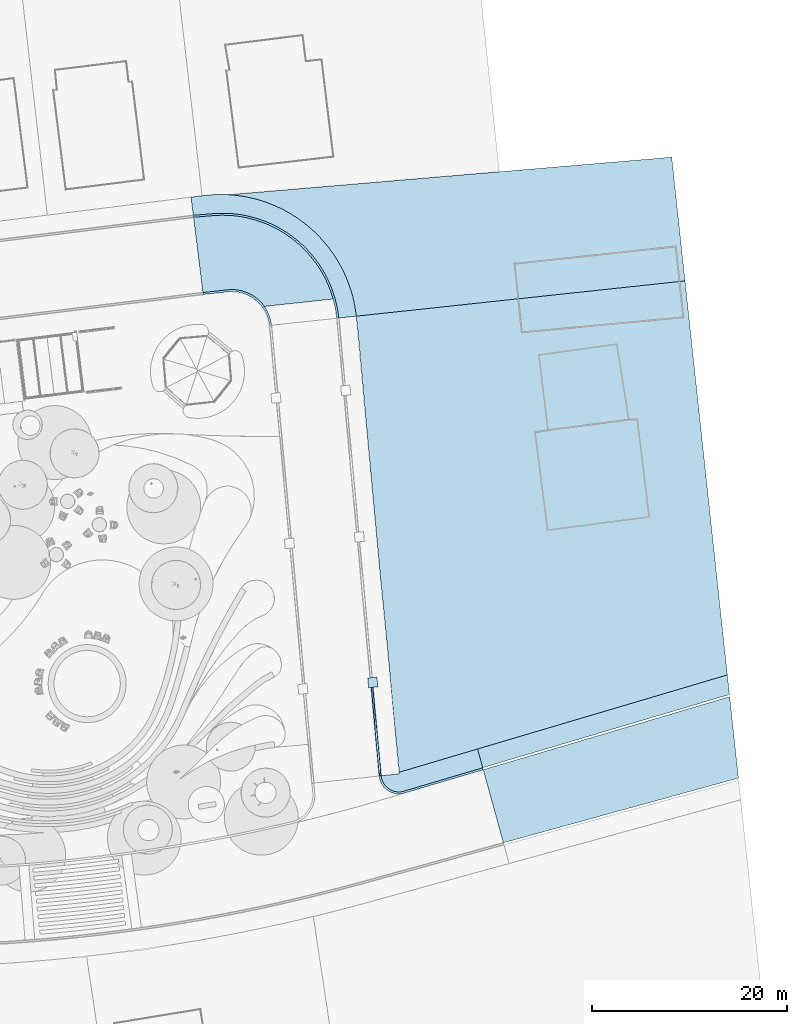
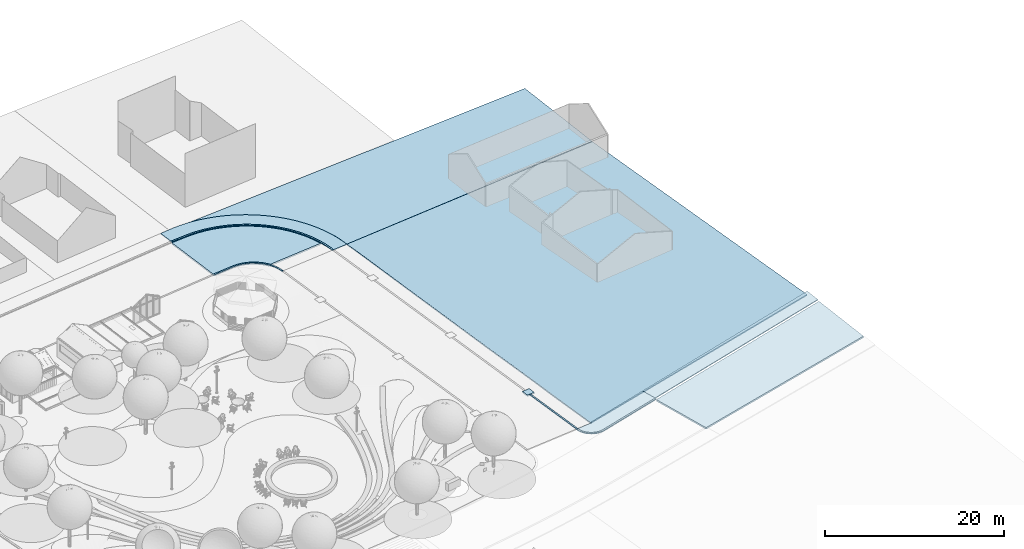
# One storey, part 15 of 75: 12 slabs.
"""IFC2X3 building model written with IfcOpenShell, lengths in metres."""

import ifcopenshell
import ifcopenshell.guid

model = None  # the IFC model being written
_history = None  # IfcOwnerHistory: only IFC2X3 demands one
_inside = {}  # id of a spatial element -> (the spatial element, [elements in it])
_under = {}  # id of a project, library or spatial element -> (it, [spatial elements below it])
_declared = {}  # id of a project -> (the project, [libraries it declares])
_typed = {}  # id of a type object -> (the type object, [elements of that type])
_made_of = {}  # id of a material, layer set ... -> (it, [elements and type objects made of it])


def new_model(schema):
    """Start an empty IFC model of exactly this schema.

    Asked for "IFC4X3", IfcOpenShell would pick the latest addendum, in which some entities
    have other attributes; the version numbers below select the first issue.
    IFC2X3 requires an IfcOwnerHistory on every rooted entity: one is made here for all.
    """
    global model, _history
    if schema == "IFC4X3":
        model = ifcopenshell.file(schema_version=(4, 3, 0, 0))
    else:
        model = ifcopenshell.file(schema=schema)
    _inside.clear()
    _under.clear()
    _declared.clear()
    _typed.clear()
    _made_of.clear()
    _history = None
    if model.schema == "IFC2X3":
        org = make("IfcOrganization", Name="unknown")
        user = make(
            "IfcPersonAndOrganization",
            ThePerson=make("IfcPerson", FamilyName="unknown"),
            TheOrganization=org,
        )
        app = make(
            "IfcApplication",
            ApplicationDeveloper=org,
            Version="unknown",
            ApplicationFullName="unknown",
            ApplicationIdentifier="unknown",
        )
        _history = make(
            "IfcOwnerHistory",
            OwningUser=user,
            OwningApplication=app,
            ChangeAction="ADDED",
            CreationDate=0,
        )
    return model


def make(cls, **values):
    """One entity of the class cls with the attributes given. An attribute that is None is left unset."""
    return model.create_entity(
        cls, **{name: value for name, value in values.items() if value is not None}
    )


def entity(cls, *values):
    """Any entity or typed value of the class cls, its attributes in the order of the schema. None: left unset."""
    e = model.create_entity(cls)
    for i, value in enumerate(values):
        if value is not None:
            e[i] = value
    return e


def rooted(cls, **values):
    """An entity with a GlobalId (a new one), such as an element, a storey or a relation."""
    return make(cls, GlobalId=ifcopenshell.guid.new(), OwnerHistory=_history, **values)


def si_unit(unit_type, name, prefix=None):
    """IfcSIUnit, for example si_unit("LENGTHUNIT", "METRE", prefix="MILLI")."""
    return make("IfcSIUnit", UnitType=unit_type, Prefix=prefix, Name=name)


def converted_unit(unit_type, name, factor, base, dimensions=None, offset=None):
    """IfcConversionBasedUnit, such as the inch: factor (a typed value) times the base unit."""
    return make(
        "IfcConversionBasedUnit"
        if offset is None
        else "IfcConversionBasedUnitWithOffset",
        ConversionOffset=offset,
        Dimensions=None
        if dimensions is None
        else entity("IfcDimensionalExponents", *dimensions),
        UnitType=unit_type,
        Name=name,
        ConversionFactor=make(
            "IfcMeasureWithUnit", ValueComponent=factor, UnitComponent=base
        ),
    )


def derived_unit(unit_type, elements):
    """IfcDerivedUnit: a product of units, each with its exponent."""
    return make(
        "IfcDerivedUnit",
        Elements=[
            make("IfcDerivedUnitElement", Unit=unit, Exponent=power)
            for unit, power in elements
        ],
        UnitType=unit_type,
    )


def assignment(units):
    """IfcUnitAssignment: the units of a project."""
    return None if units is None else make("IfcUnitAssignment", Units=units)


def point(xyz):
    """IfcCartesianPoint."""
    return None if xyz is None else make("IfcCartesianPoint", Coordinates=xyz)


def direction(xyz):
    """IfcDirection."""
    return None if xyz is None else make("IfcDirection", DirectionRatios=xyz)


def frame(location, z_axis=None, x_axis=None):
    """IfcAxis2Placement3D, a coordinate frame: its origin and axes. An axis left out is left unset."""
    return make(
        "IfcAxis2Placement3D",
        Location=point(location),
        Axis=direction(z_axis),
        RefDirection=direction(x_axis),
    )


def frame_2d(location, x_axis=None):
    """IfcAxis2Placement2D, a coordinate frame in the plane: its origin and x axis."""
    return make(
        "IfcAxis2Placement2D", Location=point(location), RefDirection=direction(x_axis)
    )


def origin():
    """The frame at (0, 0, 0) with its axes left unset."""
    return frame((0.0, 0.0, 0.0))


def place(relative_to, where):
    """IfcLocalPlacement: puts the frame where relative to a parent placement (None: the world)."""
    return make(
        "IfcLocalPlacement", PlacementRelTo=relative_to, RelativePlacement=where
    )


def context(
    kind, dimensions, precision=None, world=None, true_north=None, identifier=None
):
    """IfcGeometricRepresentationContext, for example the 3D "Model" context."""
    return make(
        "IfcGeometricRepresentationContext",
        ContextIdentifier=identifier,
        ContextType=kind,
        CoordinateSpaceDimension=dimensions,
        Precision=precision,
        WorldCoordinateSystem=world,
        TrueNorth=true_north,
    )


def subcontext(parent, identifier, kind, view, scale=None):
    """IfcGeometricRepresentationSubContext, for example "Body" below "Model"."""
    return make(
        "IfcGeometricRepresentationSubContext",
        ContextIdentifier=identifier,
        ContextType=kind,
        ParentContext=parent,
        TargetScale=scale,
        TargetView=view,
    )


def project(units=None, contexts=None):
    """IfcProject with its units and contexts."""
    return rooted(
        "IfcProject",
        Name="project",
        RepresentationContexts=contexts,
        UnitsInContext=assignment(units),
    )


def spatial(cls, under=None, at=None, **own):
    """A site, building, storey or space (cls), placed at a placement, below another one or the project."""
    s = rooted(cls, ObjectPlacement=at, **own)
    if under is not None:
        _under.setdefault(under.id(), (under, []))[1].append(s)
    return s


def polyline(points):
    """IfcPolyline through the points."""
    return make("IfcPolyline", Points=[point(p) for p in points])


def circle_curve(where, radius):
    """IfcCircle in the frame where."""
    return make("IfcCircle", Position=where, Radius=radius)


def parameter(value):
    """IfcParameterValue: where a trimmed curve begins or ends, as a parameter of its basis curve."""
    return model.create_entity("IfcParameterValue", value)


def trimmed(basis, trim1, trim2, sense, master):
    """IfcTrimmedCurve: the piece of a basis curve between two trims."""
    return make(
        "IfcTrimmedCurve",
        BasisCurve=basis,
        Trim1=trim1,
        Trim2=trim2,
        SenseAgreement=sense,
        MasterRepresentation=master,
    )


def segment(curve, same_sense, transition):
    """IfcCompositeCurveSegment."""
    return make(
        "IfcCompositeCurveSegment",
        Transition=transition,
        SameSense=same_sense,
        ParentCurve=curve,
    )


def composite_curve(segments, self_intersect=None):
    """IfcCompositeCurve: segments joined end to end."""
    return make("IfcCompositeCurve", Segments=segments, SelfIntersect=self_intersect)


def outline(outer, holes=None, kind="AREA"):
    """IfcArbitraryClosedProfileDef: a profile drawn as a closed curve; with holes, ...WithVoids."""
    if holes is None:
        return make("IfcArbitraryClosedProfileDef", ProfileType=kind, OuterCurve=outer)
    return make(
        "IfcArbitraryProfileDefWithVoids",
        ProfileType=kind,
        OuterCurve=outer,
        InnerCurves=holes,
    )


def extrude(swept, where, along, depth):
    """IfcExtrudedAreaSolid: the profile swept, set in the frame where, extruded along a direction by depth."""
    return make(
        "IfcExtrudedAreaSolid",
        SweptArea=swept,
        Position=where,
        ExtrudedDirection=direction(along),
        Depth=depth,
    )


def clip(a, b, op="DIFFERENCE"):
    """IfcBooleanClippingResult: the solid a cut by the half space b."""
    return make(
        "IfcBooleanClippingResult", Operator=op, FirstOperand=a, SecondOperand=b
    )


def halfspace(plane, agree):
    """IfcHalfSpaceSolid: all space on one side of the plane z = 0 of the frame plane."""
    return make(
        "IfcHalfSpaceSolid",
        BaseSurface=make("IfcPlane", Position=plane),
        AgreementFlag=agree,
    )


def shape(context_of_items, identifier, shape_type, items):
    """IfcShapeRepresentation: the items that make up one representation, for example the "Body"."""
    return make(
        "IfcShapeRepresentation",
        ContextOfItems=context_of_items,
        RepresentationIdentifier=identifier,
        RepresentationType=shape_type,
        Items=items,
    )


def material(Name=None, Category=None):
    """IfcMaterial."""
    return make("IfcMaterial", Name=Name, Category=Category)


def layer(
    of_material, thickness, ventilated=None, Name=None, Category=None, Priority=None
):
    """IfcMaterialLayer: one layer of a wall or slab, of a material (None: an air gap)."""
    return make(
        "IfcMaterialLayer",
        Material=of_material,
        LayerThickness=thickness,
        IsVentilated=ventilated,
        Name=Name,
        Category=Category,
        Priority=Priority,
    )


def layer_set(layers, Name=None):
    """IfcMaterialLayerSet."""
    return make("IfcMaterialLayerSet", MaterialLayers=layers, LayerSetName=Name)


def layer_usage(for_layer_set, set_direction, sense, offset, extent=None):
    """IfcMaterialLayerSetUsage: how a layer set lies in its element."""
    return make(
        "IfcMaterialLayerSetUsage",
        ForLayerSet=for_layer_set,
        LayerSetDirection=set_direction,
        DirectionSense=sense,
        OffsetFromReferenceLine=offset,
        ReferenceExtent=extent,
    )


def made_of(thing, what):
    """Note that an element or type object is made of a material, layer set ...; save() writes the relation."""
    if what is not None:
        _made_of.setdefault(what.id(), (what, []))[1].append(thing)
    return thing


def type_object(cls, material=None, **own):
    """A type object (cls), such as IfcWallType, which elements share."""
    return made_of(rooted(cls, **own), material)


def element(
    cls,
    number,
    at=None,
    inside=None,
    cuts=None,
    type_object=None,
    material=None,
    context=None,
    identifier="Body",
    shape_type=None,
    held_by="IfcProductDefinitionShape",
    body=None,
    shapes=None,
    **own,
):
    """One element of the class cls, such as IfcWall. Its Tag is "e" and its number.

    at: its placement. inside: the storey or other place that contains it. cuts: it is an
    opening in that element (IfcRelVoidsElement). A single representation is given by context,
    identifier, shape_type and body (its items); several are given by shapes. held_by: the class
    of the entity that holds the representations. save() writes the other relations.
    """
    e = rooted(cls, Tag="e%d" % number, ObjectPlacement=at, **own)
    if body is not None:
        shapes = [shape(context, identifier, shape_type, body)]
    if shapes is not None:
        e.Representation = make(held_by, Representations=shapes)
    if inside is not None:
        _inside.setdefault(inside.id(), (inside, []))[1].append(e)
    if cuts is not None:
        rooted(
            "IfcRelVoidsElement", RelatingBuildingElement=cuts, RelatedOpeningElement=e
        )
    if type_object is not None:
        _typed.setdefault(type_object.id(), (type_object, []))[1].append(e)
    return made_of(e, material)


def aggregate(whole, parts):
    """IfcRelAggregates: a whole, such as a stair, and the parts it consists of."""
    return rooted("IfcRelAggregates", RelatingObject=whole, RelatedObjects=parts)


def save(model, path):
    """Write the relations noted so far, then the file.

    IfcRelAggregates (storeys below a building ...), IfcRelContainedInSpatialStructure (elements
    in a storey), IfcRelDefinesByType, IfcRelAssociatesMaterial and IfcRelDeclares: one each for
    every whole, place, type object, material and project.
    """
    for whole, parts in _under.values():
        aggregate(whole, parts)
    for where, things in _inside.values():
        rooted(
            "IfcRelContainedInSpatialStructure",
            RelatedElements=things,
            RelatingStructure=where,
        )
    for kind, things in _typed.values():
        rooted("IfcRelDefinesByType", RelatedObjects=things, RelatingType=kind)
    for what, things in _made_of.values():
        rooted("IfcRelAssociatesMaterial", RelatedObjects=things, RelatingMaterial=what)
    for by, libraries in _declared.values():
        rooted("IfcRelDeclares", RelatingContext=by, RelatedDefinitions=libraries)
    model.write(path)


model = new_model("IFC2X3")

# Units and contexts
model_context = context("Model", 3, precision=1e-05, world=origin(), true_north=direction((6.123031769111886e-17, 1.0)))
body_context = subcontext(model_context, "Body", "Model", "MODEL_VIEW")
ifc_project = project(units=[si_unit("LENGTHUNIT", "METRE"), si_unit("AREAUNIT", "SQUARE_METRE"), si_unit("VOLUMEUNIT", "CUBIC_METRE"), converted_unit("PLANEANGLEUNIT", "DEGREE", entity("IfcRatioMeasure", 0.017453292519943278), si_unit("PLANEANGLEUNIT", "RADIAN"), dimensions=[0, 0, 0, 0, 0, 0, 0]), si_unit("MASSUNIT", "GRAM", prefix="KILO"), derived_unit("MASSDENSITYUNIT", [(si_unit("MASSUNIT", "GRAM", prefix="KILO"), 1), (si_unit("LENGTHUNIT", "METRE"), -3)]), derived_unit("IONCONCENTRATIONUNIT", [(si_unit("MASSUNIT", "GRAM", prefix="KILO"), 1), (si_unit("LENGTHUNIT", "METRE"), -3)]), derived_unit("MOMENTOFINERTIAUNIT", [(si_unit("LENGTHUNIT", "METRE"), 4)]), si_unit("TIMEUNIT", "SECOND"), si_unit("FREQUENCYUNIT", "HERTZ"), si_unit("THERMODYNAMICTEMPERATUREUNIT", "DEGREE_CELSIUS"), derived_unit("THERMALTRANSMITTANCEUNIT", [(si_unit("MASSUNIT", "GRAM", prefix="KILO"), 1), (si_unit("THERMODYNAMICTEMPERATUREUNIT", "KELVIN"), -1), (si_unit("TIMEUNIT", "SECOND"), -3)]), derived_unit("THERMALCONDUCTANCEUNIT", [(si_unit("MASSUNIT", "GRAM", prefix="KILO"), 1), (si_unit("THERMODYNAMICTEMPERATUREUNIT", "KELVIN"), -1), (si_unit("TIMEUNIT", "SECOND"), -3), (si_unit("LENGTHUNIT", "METRE"), 1)]), derived_unit("VOLUMETRICFLOWRATEUNIT", [(si_unit("LENGTHUNIT", "METRE"), 3), (si_unit("TIMEUNIT", "SECOND"), -1)]), derived_unit("MASSFLOWRATEUNIT", [(si_unit("MASSUNIT", "GRAM", prefix="KILO"), 1), (si_unit("TIMEUNIT", "SECOND"), -1)]), derived_unit("ROTATIONALFREQUENCYUNIT", [(si_unit("TIMEUNIT", "SECOND"), -1)]), si_unit("ELECTRICCURRENTUNIT", "AMPERE"), si_unit("ELECTRICVOLTAGEUNIT", "VOLT"), si_unit("POWERUNIT", "WATT"), si_unit("FORCEUNIT", "NEWTON", prefix="KILO"), si_unit("ILLUMINANCEUNIT", "LUX"), si_unit("LUMINOUSFLUXUNIT", "LUMEN"), si_unit("LUMINOUSINTENSITYUNIT", "CANDELA"), derived_unit("USERDEFINED", [(si_unit("MASSUNIT", "GRAM", prefix="KILO"), -1), (si_unit("LENGTHUNIT", "METRE"), -2), (si_unit("TIMEUNIT", "SECOND"), 3), (si_unit("LUMINOUSFLUXUNIT", "LUMEN"), 1)]), derived_unit("USERDEFINED", [(si_unit("MASSUNIT", "GRAM", prefix="KILO"), 1), (si_unit("TIMEUNIT", "SECOND"), -3), (si_unit("LENGTHUNIT", "METRE"), 3), (si_unit("ELECTRICCURRENTUNIT", "AMPERE"), -2)]), derived_unit("SOUNDPOWERUNIT", [(si_unit("MASSUNIT", "GRAM", prefix="KILO"), 1), (si_unit("TIMEUNIT", "SECOND"), -3), (si_unit("LENGTHUNIT", "METRE"), 2)]), derived_unit("SOUNDPRESSUREUNIT", [(si_unit("MASSUNIT", "GRAM", prefix="KILO"), 1), (si_unit("LENGTHUNIT", "METRE"), -1), (si_unit("TIMEUNIT", "SECOND"), -2)]), derived_unit("LINEARVELOCITYUNIT", [(si_unit("LENGTHUNIT", "METRE"), 1), (si_unit("TIMEUNIT", "SECOND"), -1)]), si_unit("PRESSUREUNIT", "PASCAL"), derived_unit("USERDEFINED", [(si_unit("MASSUNIT", "GRAM", prefix="KILO"), 1), (si_unit("LENGTHUNIT", "METRE"), -2), (si_unit("TIMEUNIT", "SECOND"), -2)]), derived_unit("LINEARFORCEUNIT", [(si_unit("MASSUNIT", "GRAM", prefix="KILO"), 1), (si_unit("TIMEUNIT", "SECOND"), -2)]), derived_unit("PLANARFORCEUNIT", [(si_unit("MASSUNIT", "GRAM", prefix="KILO"), 1), (si_unit("LENGTHUNIT", "METRE"), -1), (si_unit("TIMEUNIT", "SECOND"), -2)]), derived_unit("SPECIFICHEATCAPACITYUNIT", [(si_unit("THERMODYNAMICTEMPERATUREUNIT", "KELVIN"), -1), (si_unit("LENGTHUNIT", "METRE"), 2), (si_unit("TIMEUNIT", "SECOND"), -2)]), derived_unit("HEATINGVALUEUNIT", [(si_unit("LENGTHUNIT", "METRE"), 2), (si_unit("TIMEUNIT", "SECOND"), -2)]), derived_unit("VAPORPERMEABILITYUNIT", [(si_unit("LENGTHUNIT", "METRE"), -1), (si_unit("TIMEUNIT", "SECOND"), 1)]), derived_unit("DYNAMICVISCOSITYUNIT", [(si_unit("MASSUNIT", "GRAM", prefix="KILO"), 1), (si_unit("TIMEUNIT", "SECOND"), -1), (si_unit("LENGTHUNIT", "METRE"), -1)]), derived_unit("THERMALEXPANSIONCOEFFICIENTUNIT", [(si_unit("THERMODYNAMICTEMPERATUREUNIT", "KELVIN"), -1)]), derived_unit("MODULUSOFELASTICITYUNIT", [(si_unit("MASSUNIT", "GRAM", prefix="KILO"), 1), (si_unit("LENGTHUNIT", "METRE"), -1), (si_unit("TIMEUNIT", "SECOND"), -2)]), derived_unit("ISOTHERMALMOISTURECAPACITYUNIT", [(si_unit("LENGTHUNIT", "METRE"), 3), (si_unit("MASSUNIT", "GRAM", prefix="KILO"), -1)]), derived_unit("MOISTUREDIFFUSIVITYUNIT", [(si_unit("TIMEUNIT", "SECOND"), -1), (si_unit("LENGTHUNIT", "METRE"), 2)])], contexts=[model_context])

# Site, building, storey
site_placement = place(None, origin())
site = spatial("IfcSite", under=ifc_project, at=site_placement, Name="Default", CompositionType="ELEMENT")
building_placement = place(site_placement, origin())
building = spatial("IfcBuilding", under=site, at=building_placement, Name="Projeto", CompositionType="ELEMENT")
storey_placement = place(building_placement, origin())
storey = spatial("IfcBuildingStorey", under=building, at=storey_placement, Name="Nível 1", CompositionType="ELEMENT", Elevation=0.0)

# Slabs
ifc_material_1 = material(Name="Piso CAJOI PASSEIO(1)")
ifc_layer_1 = layer(ifc_material_1, 0.1)
ifc_layer_set_1 = layer_set([ifc_layer_1], Name="Piso:Basalto 40x80")
ifc_layer_usage_1 = layer_usage(ifc_layer_set_1, "AXIS3", "POSITIVE", 0.0)
slab_type_1 = type_object("IfcSlabType", Name="Piso:Basalto 40x80", PredefinedType="FLOOR", material=ifc_layer_set_1)
slab_1_placement = place(storey_placement, origin())
element("IfcSlab", 1, at=slab_1_placement, inside=storey, type_object=slab_type_1, material=ifc_layer_usage_1, Name="Piso:Basalto 40x80", ObjectType="Piso:Basalto 40x80", PredefinedType="FLOOR", context=body_context, shape_type="SweptSolid", body=[
    extrude(outline(composite_curve([segment(polyline([(-2.4495029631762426, -0.6634257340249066), (5.957023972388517, -0.663425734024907)]), True, "CONTINUOUS"), segment(polyline([(5.957023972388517, -0.663425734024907), (5.917565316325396, 1.3365742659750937)]), True, "CONTINUOUS"), segment(polyline([(5.917565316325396, 1.3365742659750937), (-2.63832095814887, 1.3365742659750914)]), True, "CONTINUOUS"), segment(trimmed(circle_curve(frame_2d((-2.5150211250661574, -0.48506120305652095), x_axis=(-0.0675318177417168, 0.997717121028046)), 1.8258035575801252), [parameter(0.0)], [parameter(97.35859278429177)], True, "PARAMETER"), True, "CONTINUOUS"), segment(polyline([(-4.305861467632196, -0.8406585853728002), (-2.4809038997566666, -0.5056384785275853)]), True, "CONTINUOUS"), segment(polyline([(-2.4809038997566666, -0.5056384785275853), (-2.449502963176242, -0.6634257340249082)]), True, "CONTINUOUS")], self_intersect=False)), frame((43.28045623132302, -9.577537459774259, 0.0), z_axis=(0.0, 0.0, -1.0), x_axis=(0.9587211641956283, 0.2843479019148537, 0.0)), (0.0, 0.0, 1.0), 0.1),
])
slab_2_placement = place(storey_placement, origin())
element("IfcSlab", 2, at=slab_2_placement, inside=storey, type_object=slab_type_1, material=ifc_layer_usage_1, Name="Piso:Basalto 40x80", ObjectType="Piso:Basalto 40x80", PredefinedType="FLOOR", context=body_context, shape_type="SweptSolid", body=[
    extrude(outline(composite_curve([segment(polyline([(-5.354726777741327, -5.37583526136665), (-4.037716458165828, -5.375835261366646)]), True, "CONTINUOUS"), segment(trimmed(circle_curve(frame_2d((-4.037716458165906, 8.624164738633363), x_axis=(0.0, -1.0)), 14.000000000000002), [parameter(0.0)], [parameter(90.91610442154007)], True, "PARAMETER"), True, "CONTINUOUS"), segment(polyline([(9.960494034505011, 8.848001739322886), (8.153680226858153, 8.816190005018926)]), True, "CONTINUOUS"), segment(trimmed(circle_curve(frame_2d((-3.843871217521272, 8.573786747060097), x_axis=(0.9997959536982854, 0.02020027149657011)), 11.999999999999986), [parameter(271.1200027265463)], [parameter(0.0)], True, "PARAMETER"), False, "CONTINUOUS"), segment(polyline([(-3.367004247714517, -3.4167344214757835), (-5.354726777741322, -3.4957868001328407)]), True, "CONTINUOUS"), segment(polyline([(-5.354726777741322, -3.4957868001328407), (-5.354726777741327, -5.37583526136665)]), True, "CONTINUOUS")], self_intersect=False)), frame((25.372690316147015, 44.71967810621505, -2.6), z_axis=(0.0, 0.0, -1.0), x_axis=(0.9922753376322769, 0.12405504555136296, 0.0)), (0.0, 0.0, 1.0), 0.1),
])
slab_3_placement = place(storey_placement, frame((48.8029374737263, -19.001494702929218, -0.1)))
element("IfcSlab", 3, at=slab_3_placement, inside=storey, type_object=slab_type_1, material=ifc_layer_usage_1, Name="Piso:Basalto 40x80", ObjectType="Piso:Basalto 40x80", PredefinedType="FLOOR", context=body_context, shape_type="SweptSolid", body=[
    extrude(outline(polyline([(14.506754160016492, 2.30788078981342), (-11.133146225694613, 9.912440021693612), (-11.35033952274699, 7.890745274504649), (13.975888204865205, 0.3792184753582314), (14.506754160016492, 2.30788078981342)])), frame((14.506754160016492, 9.445984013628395, 0.1), z_axis=(0.0, 0.0, -1.0), x_axis=(-1.0, 0.0, 0.0)), (0.0, 0.0, 1.0), 0.1),
])
ifc_material_2 = material(Name="Concreto, Faixa de areia/cimento")
ifc_layer_2 = layer(ifc_material_2, 0.05)
ifc_material_3 = material(Name="Concreto, Moldado no local")
ifc_layer_3 = layer(ifc_material_3, 0.17500000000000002)
ifc_layer_set_2 = layer_set([ifc_layer_2, ifc_layer_3], Name="Piso:Concreto moldado em loco 225 mm")
ifc_layer_usage_2 = layer_usage(ifc_layer_set_2, "AXIS3", "POSITIVE", 0.0)
slab_type_2 = type_object("IfcSlabType", Name="Piso:Concreto moldado em loco 225 mm", PredefinedType="FLOOR", material=ifc_layer_set_2)
slab_4_placement = place(storey_placement, origin())
element("IfcSlab", 4, at=slab_4_placement, inside=storey, type_object=slab_type_2, material=ifc_layer_usage_2, Name="Piso:Concreto moldado em loco 225 mm", ObjectType="Piso:Concreto moldado em loco 225 mm", PredefinedType="FLOOR", context=body_context, shape_type="SweptSolid", body=[
    extrude(outline(composite_curve([segment(trimmed(circle_curve(frame_2d((-6.0008043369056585, -2.2465206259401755), x_axis=(1.0, 0.0)), 11.8), [parameter(0.0)], [parameter(79.1264486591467)], True, "PARAMETER"), True, "CONTINUOUS"), segment(polyline([(-3.7748271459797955, 9.341620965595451), (-3.932108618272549, 2.2403268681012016)]), True, "CONTINUOUS"), segment(trimmed(circle_curve(frame_2d((-6.0122138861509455, -1.294110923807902), x_axis=(0.5072056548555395, 0.8618250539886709)), 4.10110819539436), [parameter(301.9458541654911)], [parameter(0.0)], True, "PARAMETER"), False, "CONTINUOUS"), segment(polyline([(-1.9124516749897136, -1.1890478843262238), (-1.979003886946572, -3.9185188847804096)]), True, "CONTINUOUS"), segment(polyline([(-1.979003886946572, -3.9185188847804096), (5.799195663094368, -4.22786043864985)]), True, "CONTINUOUS"), segment(polyline([(5.799195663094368, -4.22786043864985), (5.799195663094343, -2.246520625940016)]), True, "CONTINUOUS")], self_intersect=False)), frame((24.353395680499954, 41.90448630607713, -2.72), z_axis=(0.0, 0.0, -1.0), x_axis=(-0.08452510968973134, 0.9964213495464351, 0.0)), (0.0, 0.0, 1.0), 0.2249999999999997),
])
slab_5_placement = place(storey_placement, frame((-94.59082948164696, -32.54686908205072, -0.34500000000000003)))
element("IfcSlab", 5, at=slab_5_placement, inside=storey, type_object=slab_type_2, material=ifc_layer_usage_2, Name="Piso:Concreto moldado em loco 225 mm", ObjectType="Piso:Concreto moldado em loco 225 mm", PredefinedType="FLOOR", context=body_context, shape_type="SweptSolid", body=[
    extrude(outline(polyline([(-61.07445955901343, 1.002626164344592), (-59.006989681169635, 8.513846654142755), (-84.301850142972, 16.016070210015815), (-85.20131927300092, 7.643564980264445), (-61.07445955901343, 1.002626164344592)])), frame((84.97072982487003, 14.663863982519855, 0.225), z_axis=(0.0, 0.0, -1.0), x_axis=(-1.0, 0.0, 0.0)), (0.0, 0.0, 1.0), 0.225),
])
ifc_material_4 = material(Name="Concreto moldado In loco")
ifc_layer_4 = layer(ifc_material_4, 0.12)
ifc_layer_set_3 = layer_set([ifc_layer_4], Name="Piso:meio fio de concreto")
ifc_layer_usage_3 = layer_usage(ifc_layer_set_3, "AXIS3", "POSITIVE", 0.0)
slab_type_3 = type_object("IfcSlabType", Name="Piso:meio fio de concreto", PredefinedType="FLOOR", material=ifc_layer_set_3)
slab_6_placement = place(storey_placement, frame((27.450849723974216, -10.7583369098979, -2.720221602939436)))
element("IfcSlab", 6, at=slab_6_placement, inside=storey, type_object=slab_type_3, material=ifc_layer_usage_3, Name="Piso:meio fio de concreto:3", ObjectType="Piso:meio fio de concreto", PredefinedType="FLOOR", context=body_context, shape_type="SweptSolid", body=[
    extrude(outline(polyline([(7.856663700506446, -45.572286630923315), (7.1169574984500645, -37.569797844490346), (6.918072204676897, -37.59108173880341), (7.654750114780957, -45.56080904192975), (7.758764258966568, -46.686082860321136), (7.957649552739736, -46.66479896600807), (7.856663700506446, -45.572286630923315)])), frame((3.5049337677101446, 47.35473072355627, 0.12022160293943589), z_axis=(-0.005864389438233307, 0.05471618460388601, 0.9984847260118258), x_axis=(0.9999828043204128, 0.00032088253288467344, 0.0058556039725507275)), (-0.0058556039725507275, 0.05471712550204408, -0.9984847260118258), 0.12018210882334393),
])
slab_7_placement = place(storey_placement, origin())
element("IfcSlab", 7, at=slab_7_placement, inside=storey, type_object=slab_type_3, material=ifc_layer_usage_3, Name="Piso:meio fio de concreto", ObjectType="Piso:meio fio de concreto", PredefinedType="FLOOR", context=body_context, shape_type="SweptSolid", body=[
    extrude(outline(composite_curve([segment(polyline([(-6.498847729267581, -5.042242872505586), (-4.517507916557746, -5.042242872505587)]), True, "CONTINUOUS"), segment(trimmed(circle_curve(frame_2d((-4.517507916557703, 6.9577571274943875), x_axis=(0.0, -1.0)), 11.99999999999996), [parameter(0.0)], [parameter(88.87999727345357)], True, "PARAMETER"), True, "CONTINUOUS"), segment(polyline([(7.480199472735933, 6.723199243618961), (7.287358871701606, 6.727470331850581)]), True, "CONTINUOUS"), segment(polyline([(7.287358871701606, 6.727470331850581), (7.2651529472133, 6.318301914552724)]), True, "CONTINUOUS"), segment(trimmed(circle_curve(frame_2d((-4.51750791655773, 6.957757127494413), x_axis=(0.9985305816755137, -0.054191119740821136)), 11.799999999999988), [parameter(273.106444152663)], [parameter(0.0)], True, "PARAMETER"), False, "CONTINUOUS"), segment(polyline([(-4.517507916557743, -4.842242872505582), (-6.498847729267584, -4.842242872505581)]), True, "CONTINUOUS"), segment(polyline([(-6.498847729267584, -4.842242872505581), (-6.498847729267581, -5.042242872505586)]), True, "CONTINUOUS")], self_intersect=False)), frame((26.535369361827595, 43.049969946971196, -2.6), z_axis=(0.0, 0.0, -1.0), x_axis=(0.9964213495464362, 0.08452510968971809, 0.0)), (0.0, 0.0, 1.0), 0.11999999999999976),
])
slab_8_placement = place(storey_placement, frame((20.616175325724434, 36.22146156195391, -2.72)))
element("IfcSlab", 8, at=slab_8_placement, inside=storey, type_object=slab_type_3, material=ifc_layer_usage_3, Name="Piso:meio fio de concreto", ObjectType="Piso:meio fio de concreto", PredefinedType="FLOOR", context=body_context, shape_type="SweptSolid", body=[
    extrude(outline(composite_curve([segment(polyline([(-0.802993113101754, 1.9762730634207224), (-3.5170709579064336, 1.6792501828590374)]), True, "CONTINUOUS"), segment(polyline([(-3.5170709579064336, 1.6792501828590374), (-3.4922570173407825, 1.4807716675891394)]), True, "CONTINUOUS"), segment(polyline([(-3.4922570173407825, 1.4807716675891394), (-0.78626887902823, 1.7769092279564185)]), True, "CONTINUOUS"), segment(trimmed(circle_curve(frame_2d((-0.5611473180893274, -2.117697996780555), x_axis=(1.0, 0.0)), 3.901108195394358), [parameter(6.1370869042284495)], [parameter(93.30820995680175)], True, "PARAMETER"), False, "CONTINUOUS"), segment(polyline([(3.317603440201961, -1.7006395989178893), (3.5164645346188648, -1.6793259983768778)]), True, "CONTINUOUS"), segment(trimmed(circle_curve(frame_2d((-0.5611473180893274, -2.117697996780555), x_axis=(1.0, 0.0)), 4.101108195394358), [parameter(6.136132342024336)], [parameter(93.38074163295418)], True, "PARAMETER"), True, "CONTINUOUS")], self_intersect=False)), frame((3.5170709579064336, 1.7006395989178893, 0.11999999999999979)), (0.0, 0.0, -1.0), 0.11999999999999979),
])
slab_9_placement = place(storey_placement, frame((-32.49151896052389, -30.854733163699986, -0.12)))
element("IfcSlab", 9, at=slab_9_placement, inside=storey, type_object=slab_type_3, material=ifc_layer_usage_3, Name="Piso:meio fio de concreto:5", ObjectType="Piso:meio fio de concreto", PredefinedType="FLOOR", context=body_context, shape_type="SweptSolid", body=[
    extrude(outline(composite_curve([segment(trimmed(circle_curve(frame_2d((-31.191767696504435, 10.268656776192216), x_axis=(-1.0, 0.0)), 2.0258035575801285), [parameter(77.15618086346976)], [parameter(174.6291581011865)], True, "PARAMETER"), True, "CONTINUOUS"), segment(polyline([(-29.17485796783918, 10.079038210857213), (-29.373737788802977, 10.100353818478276)]), True, "CONTINUOUS"), segment(trimmed(circle_curve(frame_2d((-31.191767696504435, 10.268656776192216), x_axis=(-1.0, 0.0)), 1.8258035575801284), [parameter(77.3523617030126)], [parameter(174.71095448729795)], True, "PARAMETER"), False, "CONTINUOUS"), segment(polyline([(-31.59153576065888, 8.48715624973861), (-39.79424501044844, 10.920004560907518)]), True, "CONTINUOUS"), segment(polyline([(-39.79424501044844, 10.920004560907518), (-39.84733160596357, 10.727138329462)]), True, "CONTINUOUS"), segment(polyline([(-39.84733160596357, 10.727138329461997), (-31.642092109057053, 8.293539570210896)]), True, "CONTINUOUS")], self_intersect=False)), frame((42.031077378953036, 10.758436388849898, 0.12), z_axis=(0.0, 0.0, -1.0), x_axis=(-1.0, 0.0, 0.0)), (0.0, 0.0, 1.0), 0.12),
])
ifc_material_5 = material(Name="<Unnamed>")
ifc_layer_5 = layer(ifc_material_5, 0.14999999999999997)
ifc_layer_set_4 = layer_set([ifc_layer_5], Name="Piso:Genérico 150 mm")
ifc_layer_usage_4 = layer_usage(ifc_layer_set_4, "AXIS3", "POSITIVE", 0.0)
slab_type_4 = type_object("IfcSlabType", Name="Piso:Genérico 150 mm", PredefinedType="FLOOR", material=ifc_layer_set_4)
slab_10_placement = place(storey_placement, origin())
element("IfcSlab", 10, at=slab_10_placement, inside=storey, type_object=slab_type_4, material=ifc_layer_usage_4, Name="Piso:Genérico 150 mm", ObjectType="Piso:Genérico 150 mm", PredefinedType="FLOOR", context=body_context, shape_type="SweptSolid", body=[
    clip(clip(extrude(outline(polyline([(-20.340075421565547, -28.94523672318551), (20.38510961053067, -28.945236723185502), (26.72827577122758, 5.600991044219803), (19.878880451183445, 5.547269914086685), (16.081931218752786, 5.470685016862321), (12.918502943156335, 5.4305611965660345), (6.76968687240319, 5.3878148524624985), (-3.971637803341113, 5.2251527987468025), (-6.35632569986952, 5.1932825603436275), (-15.718928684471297, 5.035876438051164), (-17.009450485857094, 5.012633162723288), (-19.01869543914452, 4.993269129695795), (-20.347273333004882, 4.992937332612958), (-20.340075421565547, -28.94523672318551)])), frame((43.48867431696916, 17.506290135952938, -1.5277588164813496), z_axis=(0.004931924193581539, -0.05268397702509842, -0.9985990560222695), x_axis=(0.1066670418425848, -0.9928860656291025, 0.05290938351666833)), (-0.05290938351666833, -0.0007228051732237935, 0.9985990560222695), 0.15042116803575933), halfspace(frame((39.75704689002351, -9.905511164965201, -0.2502104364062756), z_axis=(0.004931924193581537, -0.05268397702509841, -0.9985990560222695), x_axis=(-0.09307527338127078, 0.9942520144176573, -0.05291432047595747)), False)), halfspace(frame((39.75704689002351, -9.905511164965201, -0.1), z_axis=(-0.004931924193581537, 0.05268397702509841, 0.9985990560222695), x_axis=(0.09307527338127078, -0.9942520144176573, 0.05291432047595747)), False)),
])
slab_11_placement = place(storey_placement, origin())
element("IfcSlab", 11, at=slab_11_placement, inside=storey, type_object=slab_type_4, material=ifc_layer_usage_4, Name="Piso:Genérico 150 mm", ObjectType="Piso:Genérico 150 mm", PredefinedType="FLOOR", context=body_context, shape_type="SweptSolid", body=[
    extrude(outline(polyline([(-4.81387033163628, -34.91211791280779), (7.963273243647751, -34.91211791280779), (7.954785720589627, -0.9740745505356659), (6.730867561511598, -0.9360825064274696), (5.861694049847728, -0.8395176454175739), (5.239104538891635, -0.7143997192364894), (4.2705655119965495, -0.4313350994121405), (3.0050317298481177, 0.040023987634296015), (1.9043156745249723, 0.5058504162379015), (0.34214657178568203, 1.4629387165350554), (-2.2083451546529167, 3.7751712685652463), (-3.639756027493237, 5.691508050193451), (-4.528080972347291, 7.185877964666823), (-5.124323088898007, 8.541527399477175), (-5.488003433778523, 9.784139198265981), (-5.718775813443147, 10.940545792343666), (-5.853673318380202, 12.34887426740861), (-5.896956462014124, 13.4431882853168), (-4.81387033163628, -34.91211791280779)])), frame((34.53581619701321, 44.98091555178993, -2.599999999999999), z_axis=(0.0, 0.0, -1.0), x_axis=(0.10681665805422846, -0.9942787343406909, 0.0)), (0.0, 0.0, 1.0), 0.15),
])
ifc_material_6 = material(Name="floração tipo 2(1)")
ifc_layer_6 = layer(ifc_material_6, 0.04)
ifc_material_7 = material(Name="floração tipo 2")
ifc_layer_7 = layer(ifc_material_7, 0.16)
ifc_layer_set_5 = layer_set([ifc_layer_6, ifc_layer_7], Name="Piso:Glicinia")
ifc_layer_usage_5 = layer_usage(ifc_layer_set_5, "AXIS3", "POSITIVE", 0.0)
slab_type_5 = type_object("IfcSlabType", Name="Piso:Glicinia", PredefinedType="FLOOR", material=ifc_layer_set_5)
slab_12_placement = place(storey_placement, frame((27.59549467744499, -1.6309922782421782, -2.4166315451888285)))
element("IfcSlab", 12, at=slab_12_placement, inside=storey, type_object=slab_type_5, material=ifc_layer_usage_5, Name="Piso:Glicinia:3", ObjectType="Piso:Glicinia", PredefinedType="FLOOR", context=body_context, shape_type="SweptSolid", body=[
    extrude(outline(polyline([(6.574134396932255, -36.62065242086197), (6.666325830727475, -37.61802261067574), (7.610695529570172, -37.516960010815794), (7.518928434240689, -36.51954441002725), (6.574134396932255, -36.62065242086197)])), frame((3.36028881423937, 38.22738609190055, -0.1833684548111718), z_axis=(-0.005864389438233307, 0.05471618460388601, 0.9984847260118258), x_axis=(0.9999828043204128, 0.00032088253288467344, 0.0058556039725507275)), (-0.0058556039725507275, 0.05471712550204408, -0.9984847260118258), 0.20030351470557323),
])

save(model, "model.ifc")
